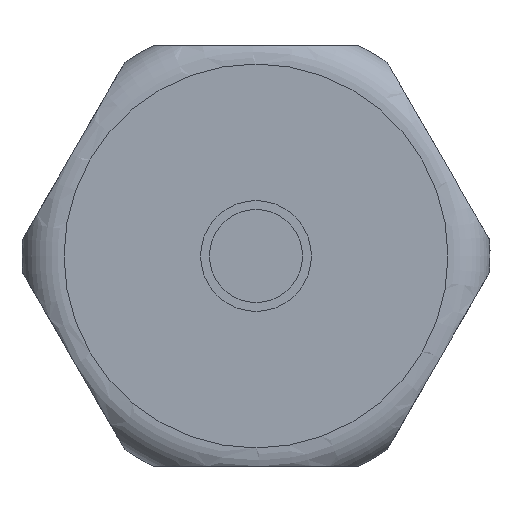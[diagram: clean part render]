
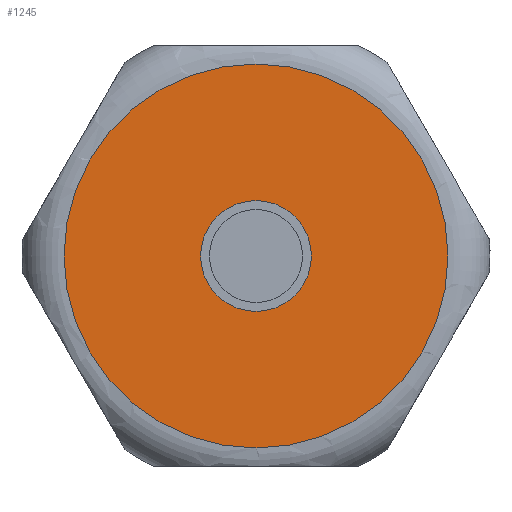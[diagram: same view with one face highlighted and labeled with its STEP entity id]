
A CAD part, left-side view. The second image highlights one B-rep face of the part: STEP entity #1245.
In plain terms, the highlighted planar face has unit normal (-1, 0, 0).
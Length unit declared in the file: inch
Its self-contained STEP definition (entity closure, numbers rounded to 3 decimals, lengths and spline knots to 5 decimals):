
#46=FACE_BOUND('',#178,.T.);
#69=PLANE('',#1365);
#109=FACE_OUTER_BOUND('',#177,.T.);
#177=EDGE_LOOP('',(#876,#877));
#178=EDGE_LOOP('',(#878,#879));
#348=CIRCLE('',#1321,0.14764);
#349=CIRCLE('',#1322,0.14764);
#375=CIRCLE('',#1366,0.51181);
#376=CIRCLE('',#1367,0.51181);
#456=VERTEX_POINT('',#1907);
#457=VERTEX_POINT('',#1908);
#496=VERTEX_POINT('',#2168);
#497=VERTEX_POINT('',#2169);
#588=EDGE_CURVE('',#456,#457,#348,.T.);
#589=EDGE_CURVE('',#457,#456,#349,.T.);
#645=EDGE_CURVE('',#496,#497,#375,.T.);
#646=EDGE_CURVE('',#497,#496,#376,.T.);
#876=ORIENTED_EDGE('',*,*,#645,.F.);
#877=ORIENTED_EDGE('',*,*,#646,.F.);
#878=ORIENTED_EDGE('',*,*,#588,.T.);
#879=ORIENTED_EDGE('',*,*,#589,.T.);
#1245=ADVANCED_FACE('',(#109,#46),#69,.T.);
#1321=AXIS2_PLACEMENT_3D('',#1909,#1506,#1507);
#1322=AXIS2_PLACEMENT_3D('',#1910,#1508,#1509);
#1365=AXIS2_PLACEMENT_3D('',#2167,#1610,#1611);
#1366=AXIS2_PLACEMENT_3D('',#2170,#1612,#1613);
#1367=AXIS2_PLACEMENT_3D('',#2171,#1614,#1615);
#1506=DIRECTION('center_axis',(1.,0.,0.));
#1507=DIRECTION('ref_axis',(0.,-0.866,0.5));
#1508=DIRECTION('center_axis',(1.,0.,0.));
#1509=DIRECTION('ref_axis',(0.,-0.866,0.5));
#1610=DIRECTION('center_axis',(-1.,0.,0.));
#1611=DIRECTION('ref_axis',(0.,-0.866,0.5));
#1612=DIRECTION('center_axis',(1.,0.,0.));
#1613=DIRECTION('ref_axis',(0.,0.866,-0.5));
#1614=DIRECTION('center_axis',(1.,0.,0.));
#1615=DIRECTION('ref_axis',(0.,0.866,-0.5));
#1907=CARTESIAN_POINT('',(-2.66747,-0.02656,-0.27052));
#1908=CARTESIAN_POINT('',(-2.66747,0.22916,-0.41816));
#1909=CARTESIAN_POINT('Origin',(-2.66747,0.1013,-0.34434));
#1910=CARTESIAN_POINT('Origin',(-2.66747,0.1013,-0.34434));
#2167=CARTESIAN_POINT('Origin',(-2.66747,0.54454,-0.60025));
#2168=CARTESIAN_POINT('',(-2.66747,0.54454,-0.60025));
#2169=CARTESIAN_POINT('',(-2.66747,-0.34194,-0.08844));
#2170=CARTESIAN_POINT('Origin',(-2.66747,0.1013,-0.34434));
#2171=CARTESIAN_POINT('Origin',(-2.66747,0.1013,-0.34434));
